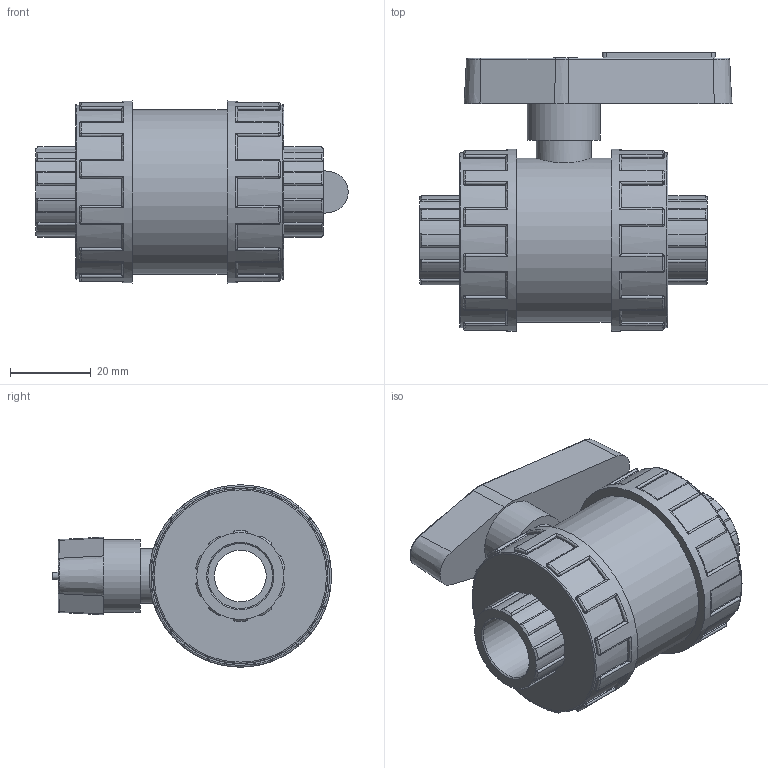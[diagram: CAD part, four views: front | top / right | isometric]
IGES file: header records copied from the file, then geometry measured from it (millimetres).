
Global section: file name: 11240016.ipt; native system: Autodesk Inventor 2015; preprocessor: unknown; author: KIM; date: 20171207.170240; units: millimetre
Bounding box: 77.07 x 68.85 x 45 mm (x, y, z)
Volume: 81932.2 mm3; surface area: 19071.7 mm2
Topology: 1 solids, 1 shells, 434 faces, 1085 edges, 662 vertices
Faces by surface type: cylinder 189, plane 114, revolution 59, sphere 48, cone 24
Full cylindrical faces by diameter (mm): 13.5 x1, 18 x1, 40.5 x1, 43.2 x2, 45 x2
